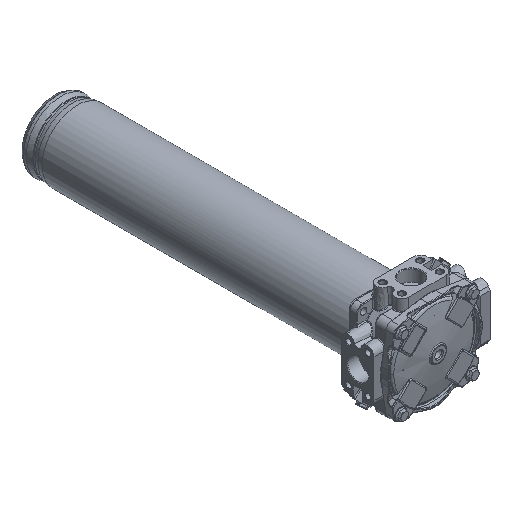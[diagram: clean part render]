
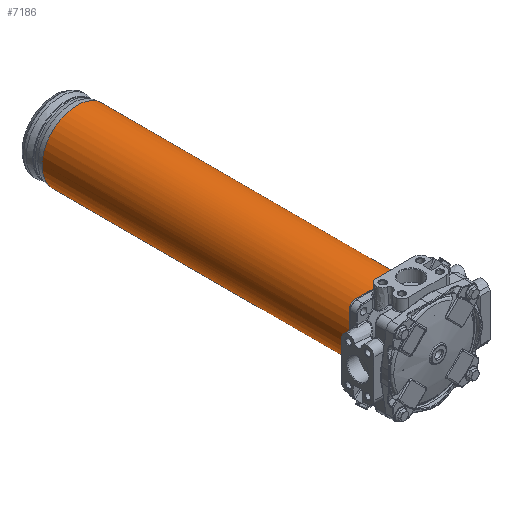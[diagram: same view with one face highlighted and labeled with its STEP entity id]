
A CAD part, isometric view. The second image highlights one B-rep face of the part: STEP entity #7186.
In plain terms, the highlighted free-form (B-spline) face has degree [2, 1] with [7, 2] control points.
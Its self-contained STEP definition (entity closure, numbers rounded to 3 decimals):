
#7099=CARTESIAN_POINT('V1947',(64.25,
   599.938,0.0));
#7100=VERTEX_POINT('V1947',#7099);
#7114=CARTESIAN_POINT('E3161',(64.25,
   599.938,0.0));
#7115=CARTESIAN_POINT('E3161',(64.25,
   599.938,111.284));
#7116=CARTESIAN_POINT('E3161',(-32.125,
   599.938,55.642));
#7117=CARTESIAN_POINT('E3161',(-128.5,
   599.938,0.));
#7118=CARTESIAN_POINT('E3161',(-32.125,
   599.938,-55.642));
#7119=CARTESIAN_POINT('E3161',(64.25,
   599.938,-111.284));
#7120=CARTESIAN_POINT('E3161',(64.25,
   599.938,0.0));
#7128=(BOUNDED_CURVE()B_SPLINE_CURVE(2,(#7114,#7115,#7116,#7117,
   #7118,#7119,#7120),.CIRCULAR_ARC.,.T.,.U.)
   B_SPLINE_CURVE_WITH_KNOTS((3,2,2,3),(0.0,24.843,
   49.686,74.529),.UNSPECIFIED.)CURVE()
   GEOMETRIC_REPRESENTATION_ITEM()RATIONAL_B_SPLINE_CURVE((1.0,
   0.5,1.0,0.5,1.0,0.5,1.0)
   )REPRESENTATION_ITEM('E3161'));
#7129=EDGE_CURVE('E3161',#7100,#7100,#7128,.T.);
#7136=CARTESIAN_POINT('F1197',(64.25,35.626,
   0.0));
#7137=CARTESIAN_POINT('F1197',(64.25,35.626,
   -111.284));
#7138=CARTESIAN_POINT('F1197',(-32.125,
   35.626,-55.642));
#7139=CARTESIAN_POINT('F1197',(-128.5,
   35.626,0.));
#7140=CARTESIAN_POINT('F1197',(-32.125,
   35.626,55.642));
#7141=CARTESIAN_POINT('F1197',(64.25,35.626,
   111.284));
#7142=CARTESIAN_POINT('F1197',(64.25,35.626,
   0.0));
#7143=CARTESIAN_POINT('F1197',(64.25,
   599.938,0.0));
#7144=CARTESIAN_POINT('F1197',(64.25,
   599.938,-111.284));
#7145=CARTESIAN_POINT('F1197',(-32.125,
   599.938,-55.642));
#7146=CARTESIAN_POINT('F1197',(-128.5,
   599.938,0.));
#7147=CARTESIAN_POINT('F1197',(-32.125,
   599.938,55.642));
#7148=CARTESIAN_POINT('F1197',(64.25,
   599.938,111.284));
#7149=CARTESIAN_POINT('F1197',(64.25,
   599.938,0.0));
#7157=(BOUNDED_SURFACE()B_SPLINE_SURFACE(2,1,((#7136,#7143),(
   #7137,#7144),(#7138,#7145),(#7139,#7146),(#7140,#7147),(
   #7141,#7148),(#7142,#7149)),.CYLINDRICAL_SURF.,.T.,.F.,.U.)
   B_SPLINE_SURFACE_WITH_KNOTS((3,2,2,3),(2,2),(0.0,
   0.394,0.789,1.183),(0.0,1.0),
   .UNSPECIFIED.)GEOMETRIC_REPRESENTATION_ITEM()
   RATIONAL_B_SPLINE_SURFACE(((1.0,1.0),(0.5,
   0.5),(1.0,1.0),(0.5,
   0.5),(1.0,1.0),(0.5,
   0.5),(1.0,1.0)))REPRESENTATION_ITEM('F1197')
   SURFACE());
#7158=CARTESIAN_POINT('V1948',(64.25,35.626,
   0.0));
#7159=VERTEX_POINT('V1948',#7158);
#7160=CARTESIAN_POINT('E3162',(64.25,
   599.938,0.0));
#7161=CARTESIAN_POINT('E3162',(64.25,35.626,
   0.0));
#7162=QUASI_UNIFORM_CURVE('E3162',1,(#7160,#7161),.POLYLINE_FORM.,
   .F.,.U.);
#7163=EDGE_CURVE('E3162',#7100,#7159,#7162,.T.);
#7164=ORIENTED_EDGE('E3162',*,*,#7163,.T.);
#7165=CARTESIAN_POINT('E3163',(64.25,35.626,
   0.0));
#7166=CARTESIAN_POINT('E3163',(64.25,35.626,
   -111.284));
#7167=CARTESIAN_POINT('E3163',(-32.125,
   35.626,-55.642));
#7168=CARTESIAN_POINT('E3163',(-128.5,
   35.626,0.));
#7169=CARTESIAN_POINT('E3163',(-32.125,
   35.626,55.642));
#7170=CARTESIAN_POINT('E3163',(64.25,35.626,
   111.284));
#7171=CARTESIAN_POINT('E3163',(64.25,35.626,
   0.0));
#7179=(BOUNDED_CURVE()B_SPLINE_CURVE(2,(#7165,#7166,#7167,#7168,
   #7169,#7170,#7171),.CIRCULAR_ARC.,.T.,.U.)
   B_SPLINE_CURVE_WITH_KNOTS((3,2,2,3),(0.0,0.394,
   0.789,1.183),.UNSPECIFIED.)CURVE()
   GEOMETRIC_REPRESENTATION_ITEM()RATIONAL_B_SPLINE_CURVE((1.0,
   0.5,1.0,0.5,1.0,0.5,1.0)
   )REPRESENTATION_ITEM('E3163'));
#7180=EDGE_CURVE('E3163',#7159,#7159,#7179,.T.);
#7181=ORIENTED_EDGE('E3163',*,*,#7180,.T.);
#7182=ORIENTED_EDGE('E3162',*,*,#7163,.F.);
#7183=ORIENTED_EDGE('E3161',*,*,#7129,.T.);
#7184=EDGE_LOOP('F1197',(#7164,#7181,#7182,#7183));
#7185=FACE_OUTER_BOUND('F1197',#7184,.T.);
#7186=ADVANCED_FACE('F1197',(#7185),#7157,.T.);
